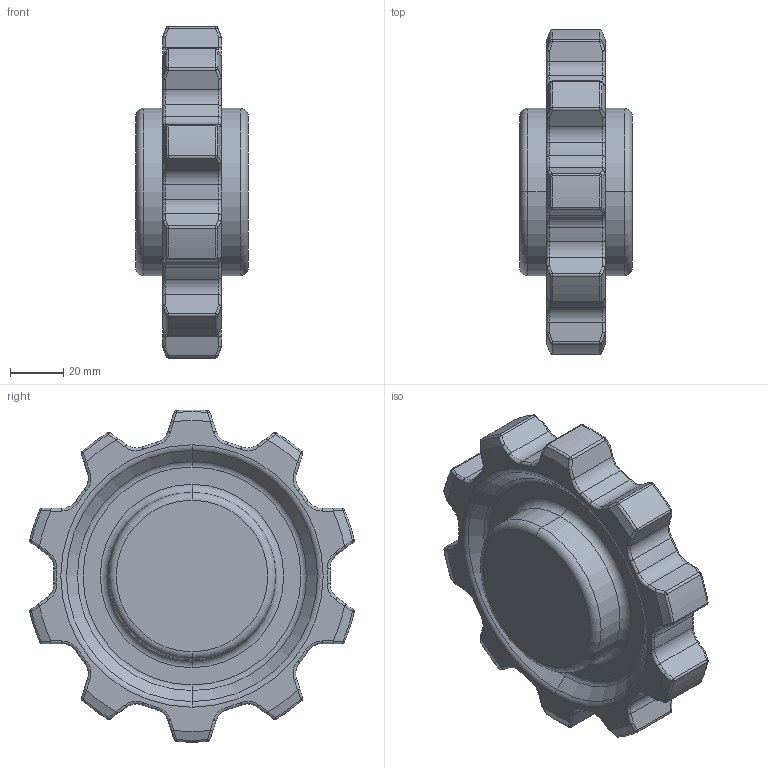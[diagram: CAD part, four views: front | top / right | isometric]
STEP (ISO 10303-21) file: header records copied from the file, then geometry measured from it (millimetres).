
FILE_DESCRIPTION((''),'2;1');
FILE_NAME('39Z10','2009-10-27T',('mth'),(''),'PRO/ENGINEER BY PARAMETRIC TECHNOLOGY CORPORATION, 2008490','PRO/ENGINEER BY PARAMETRIC TECHNOLOGY CORPORATION, 2008490','');
FILE_SCHEMA(('AUTOMOTIVE_DESIGN { 1 0 10303 214 1 1 1 1 }'));
Length unit declared in the file: millimetre
Products named in the file (1): 39Z10
Bounding box: 42.3 x 122.05 x 124.94 mm (x, y, z)
Volume: 249273.7 mm3; surface area: 36922.7 mm2
Topology: 1 solids, 1 shells, 727 faces, 1884 edges, 1183 vertices
Faces by surface type: plane 421, cylinder 104, torus 96, bspline 40, sphere 40, cone 26
Entity records: 22796 total; most frequent: CARTESIAN_POINT 5183, ORIENTED_EDGE 3764, DIRECTION 3526, EDGE_CURVE 1882, VECTOR 1292, LINE 1292, VERTEX_POINT 1183, AXIS2_PLACEMENT_3D 1117
